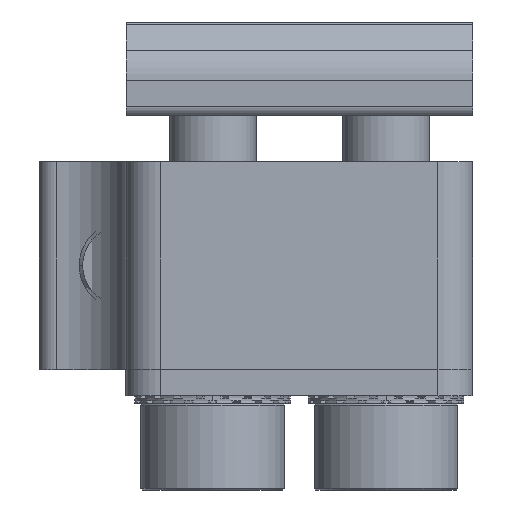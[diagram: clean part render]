
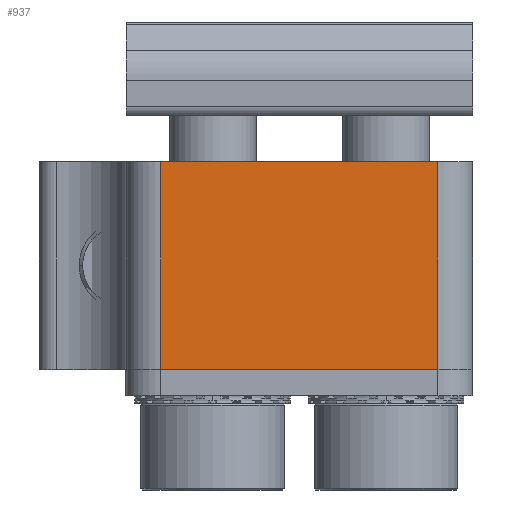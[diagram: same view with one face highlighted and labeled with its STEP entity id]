
A CAD part, front view. The second image highlights one B-rep face of the part: STEP entity #937.
In plain terms, the highlighted planar face has unit normal (0, -1, 0).
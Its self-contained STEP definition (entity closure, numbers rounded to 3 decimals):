
#550 = VECTOR ( 'NONE', #7406, 1000. ) ;
#937 = ADVANCED_FACE ( 'NONE', ( #8783 ), #8322, .T. ) ;
#980 = LINE ( 'NONE', #5040, #5016 ) ;
#1028 = DIRECTION ( 'NONE',  ( 0., 0., 1. ) ) ;
#1155 = CARTESIAN_POINT ( 'NONE',  ( -8., -75., 0. ) ) ;
#1819 = DIRECTION ( 'NONE',  ( 0., 0., -1. ) ) ;
#1840 = LINE ( 'NONE', #2337, #8440 ) ;
#1955 = VERTEX_POINT ( 'NONE', #8288 ) ;
#2292 = VERTEX_POINT ( 'NONE', #1155 ) ;
#2337 = CARTESIAN_POINT ( 'NONE',  ( 10., -75., 12. ) ) ;
#2885 = ORIENTED_EDGE ( 'NONE', *, *, #4936, .F. ) ;
#2982 = LINE ( 'NONE', #4745, #550 ) ;
#3134 = LINE ( 'NONE', #4559, #9200 ) ;
#3197 = AXIS2_PLACEMENT_3D ( 'NONE', #6944, #9144, #1819 ) ;
#3311 = VERTEX_POINT ( 'NONE', #6030 ) ;
#3819 = EDGE_CURVE ( 'NONE', #4527, #3311, #1840, .T. ) ;
#4001 = DIRECTION ( 'NONE',  ( -1., 0., 0. ) ) ;
#4527 = VERTEX_POINT ( 'NONE', #10280 ) ;
#4559 = CARTESIAN_POINT ( 'NONE',  ( -8., -75., 0. ) ) ;
#4745 = CARTESIAN_POINT ( 'NONE',  ( 10., -75., 0. ) ) ;
#4936 = EDGE_CURVE ( 'NONE', #1955, #2292, #2982, .T. ) ;
#5016 = VECTOR ( 'NONE', #1028, 1000. ) ;
#5040 = CARTESIAN_POINT ( 'NONE',  ( 8., -75., 12. ) ) ;
#6030 = CARTESIAN_POINT ( 'NONE',  ( -8., -75., 12. ) ) ;
#6295 = ORIENTED_EDGE ( 'NONE', *, *, #8907, .T. ) ;
#6944 = CARTESIAN_POINT ( 'NONE',  ( 10., -75., 12. ) ) ;
#7406 = DIRECTION ( 'NONE',  ( -1., 0., 0. ) ) ;
#7598 = ORIENTED_EDGE ( 'NONE', *, *, #3819, .T. ) ;
#7766 = ORIENTED_EDGE ( 'NONE', *, *, #9780, .T. ) ;
#8288 = CARTESIAN_POINT ( 'NONE',  ( 8., -75., 0. ) ) ;
#8322 = PLANE ( 'NONE',  #3197 ) ;
#8440 = VECTOR ( 'NONE', #4001, 1000. ) ;
#8512 = DIRECTION ( 'NONE',  ( 0., 0., -1. ) ) ;
#8783 = FACE_OUTER_BOUND ( 'NONE', #9944, .T. ) ;
#8907 = EDGE_CURVE ( 'NONE', #1955, #4527, #980, .T. ) ;
#9144 = DIRECTION ( 'NONE',  ( 0., -1., 0. ) ) ;
#9200 = VECTOR ( 'NONE', #8512, 1000. ) ;
#9780 = EDGE_CURVE ( 'NONE', #3311, #2292, #3134, .T. ) ;
#9944 = EDGE_LOOP ( 'NONE', ( #7598, #7766, #2885, #6295 ) ) ;
#10280 = CARTESIAN_POINT ( 'NONE',  ( 8., -75., 12. ) ) ;
